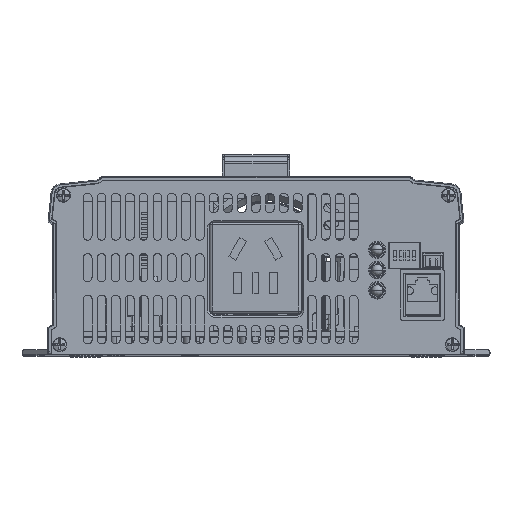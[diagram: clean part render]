
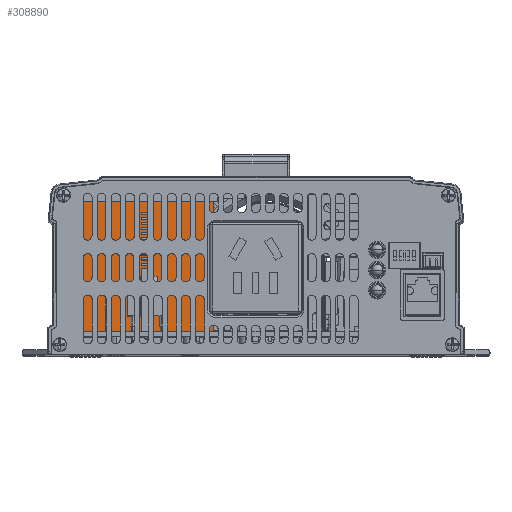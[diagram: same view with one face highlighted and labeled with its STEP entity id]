
A CAD part, top view. The second image highlights one B-rep face of the part: STEP entity #308890.
In plain terms, the highlighted planar face has unit normal (0, 0, 1).
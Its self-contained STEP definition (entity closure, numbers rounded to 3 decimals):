
#307590=CARTESIAN_POINT('',(-134.475,248.641,
-210.998));
#307600=DIRECTION('',(0.,-1.,0.));
#307610=VECTOR('',#307600,1.);
#307620=LINE('',#307590,#307610);
#307630=CARTESIAN_POINT('',(-134.475,248.641,
-210.998));
#307640=VERTEX_POINT('',#307630);
#307650=CARTESIAN_POINT('',(-134.475,197.041,
-210.998));
#307660=VERTEX_POINT('',#307650);
#307670=EDGE_CURVE('',#307640,#307660,#307620,.T.);
#308110=CARTESIAN_POINT('',(-189.475,197.041,
-210.998));
#308120=VERTEX_POINT('',#308110);
#308150=CARTESIAN_POINT('',(-134.475,197.041,
-210.998));
#308160=DIRECTION('',(-1.,0.,0.));
#308170=VECTOR('',#308160,1.);
#308180=LINE('',#308150,#308170);
#308190=EDGE_CURVE('',#307660,#308120,#308180,.T.);
#308540=CARTESIAN_POINT('',(-134.475,248.641,
-210.998));
#308550=DIRECTION('',(-1.,0.,0.));
#308560=VECTOR('',#308550,1.);
#308570=LINE('',#308540,#308560);
#308580=CARTESIAN_POINT('',(-189.475,248.641,
-210.998));
#308590=VERTEX_POINT('',#308580);
#308600=EDGE_CURVE('',#307640,#308590,#308570,.T.);
#308730=CARTESIAN_POINT('',(-189.475,197.941,
-210.998));
#308740=DIRECTION('',(0.,0.,1.));
#308750=DIRECTION('',(1.,0.,0.));
#308760=AXIS2_PLACEMENT_3D('',#308730,#308740,#308750);
#308770=PLANE('',#308760);
#308780=CARTESIAN_POINT('',(-189.475,248.641,
-210.998));
#308790=DIRECTION('',(0.,-1.,0.));
#308800=VECTOR('',#308790,1.);
#308810=LINE('',#308780,#308800);
#308820=EDGE_CURVE('',#308590,#308120,#308810,.T.);
#308830=ORIENTED_EDGE('',*,*,#308820,.T.);
#308840=ORIENTED_EDGE('',*,*,#308600,.T.);
#308850=ORIENTED_EDGE('',*,*,#307670,.F.);
#308860=ORIENTED_EDGE('',*,*,#308190,.F.);
#308870=EDGE_LOOP('',(#308860,#308850,#308840,#308830));
#308880=FACE_OUTER_BOUND('',#308870,.T.);
#308890=ADVANCED_FACE('',(#308880),#308770,.T.);
